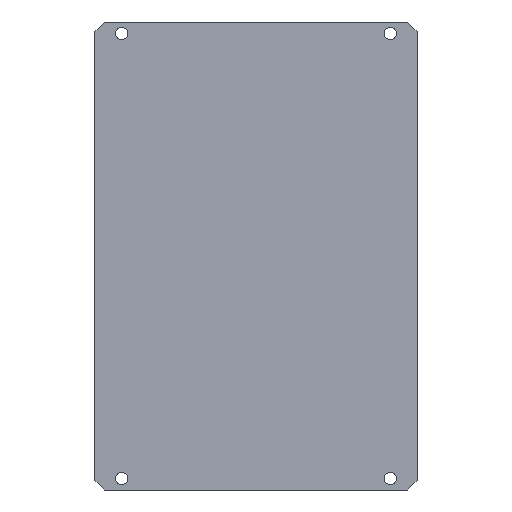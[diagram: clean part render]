
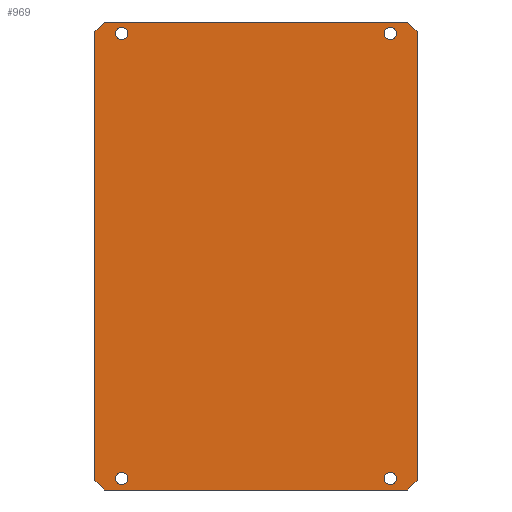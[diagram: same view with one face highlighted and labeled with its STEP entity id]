
A CAD part, front view. The second image highlights one B-rep face of the part: STEP entity #969.
In plain terms, the highlighted planar face has unit normal (0, -1, 0).
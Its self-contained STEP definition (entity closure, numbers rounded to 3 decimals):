
#31=LINE('',#1651,#83);
#33=LINE('',#1656,#85);
#34=LINE('',#1658,#86);
#35=LINE('',#1660,#87);
#36=LINE('',#1661,#88);
#37=LINE('',#1663,#89);
#38=LINE('',#1665,#90);
#39=LINE('',#1666,#91);
#83=VECTOR('',#1378,10.);
#85=VECTOR('',#1382,10.);
#86=VECTOR('',#1383,10.);
#87=VECTOR('',#1384,10.);
#88=VECTOR('',#1385,10.);
#89=VECTOR('',#1386,10.);
#90=VECTOR('',#1387,10.);
#91=VECTOR('',#1388,10.);
#196=PLANE('',#1120);
#230=FACE_BOUND('',#404,.T.);
#231=FACE_BOUND('',#405,.T.);
#232=FACE_BOUND('',#406,.T.);
#233=FACE_BOUND('',#407,.T.);
#302=FACE_OUTER_BOUND('',#403,.T.);
#403=EDGE_LOOP('',(#782,#783,#784,#785,#786,#787,#788,#789));
#404=EDGE_LOOP('',(#790));
#405=EDGE_LOOP('',(#791));
#406=EDGE_LOOP('',(#792));
#407=EDGE_LOOP('',(#793));
#478=CIRCLE('',#1121,1.6);
#479=CIRCLE('',#1122,1.6);
#480=CIRCLE('',#1123,1.6);
#481=CIRCLE('',#1124,1.6);
#543=VERTEX_POINT('',#1648);
#544=VERTEX_POINT('',#1650);
#545=VERTEX_POINT('',#1654);
#546=VERTEX_POINT('',#1655);
#547=VERTEX_POINT('',#1657);
#548=VERTEX_POINT('',#1659);
#549=VERTEX_POINT('',#1662);
#550=VERTEX_POINT('',#1664);
#551=VERTEX_POINT('',#1667);
#552=VERTEX_POINT('',#1669);
#553=VERTEX_POINT('',#1671);
#554=VERTEX_POINT('',#1673);
#632=EDGE_CURVE('',#543,#544,#31,.T.);
#634=EDGE_CURVE('',#545,#546,#33,.T.);
#635=EDGE_CURVE('',#545,#547,#34,.T.);
#636=EDGE_CURVE('',#548,#547,#35,.T.);
#637=EDGE_CURVE('',#548,#544,#36,.T.);
#638=EDGE_CURVE('',#543,#549,#37,.T.);
#639=EDGE_CURVE('',#550,#549,#38,.T.);
#640=EDGE_CURVE('',#550,#546,#39,.T.);
#641=EDGE_CURVE('',#551,#551,#478,.T.);
#642=EDGE_CURVE('',#552,#552,#479,.T.);
#643=EDGE_CURVE('',#553,#553,#480,.T.);
#644=EDGE_CURVE('',#554,#554,#481,.T.);
#782=ORIENTED_EDGE('',*,*,#634,.F.);
#783=ORIENTED_EDGE('',*,*,#635,.T.);
#784=ORIENTED_EDGE('',*,*,#636,.F.);
#785=ORIENTED_EDGE('',*,*,#637,.T.);
#786=ORIENTED_EDGE('',*,*,#632,.F.);
#787=ORIENTED_EDGE('',*,*,#638,.T.);
#788=ORIENTED_EDGE('',*,*,#639,.F.);
#789=ORIENTED_EDGE('',*,*,#640,.T.);
#790=ORIENTED_EDGE('',*,*,#641,.T.);
#791=ORIENTED_EDGE('',*,*,#642,.T.);
#792=ORIENTED_EDGE('',*,*,#643,.T.);
#793=ORIENTED_EDGE('',*,*,#644,.T.);
#969=ADVANCED_FACE('',(#302,#230,#231,#232,#233),#196,.F.);
#1120=AXIS2_PLACEMENT_3D('',#1653,#1380,#1381);
#1121=AXIS2_PLACEMENT_3D('',#1668,#1389,#1390);
#1122=AXIS2_PLACEMENT_3D('',#1670,#1391,#1392);
#1123=AXIS2_PLACEMENT_3D('',#1672,#1393,#1394);
#1124=AXIS2_PLACEMENT_3D('',#1674,#1395,#1396);
#1378=DIRECTION('',(0.707,0.,-0.707));
#1380=DIRECTION('center_axis',(0.,1.,0.));
#1381=DIRECTION('ref_axis',(0.,0.,1.));
#1382=DIRECTION('',(-0.707,0.,0.707));
#1383=DIRECTION('',(1.,0.,0.));
#1384=DIRECTION('',(-0.707,0.,-0.707));
#1385=DIRECTION('',(0.,0.,1.));
#1386=DIRECTION('',(-1.,0.,0.));
#1387=DIRECTION('',(0.707,0.,0.707));
#1388=DIRECTION('',(0.,0.,-1.));
#1389=DIRECTION('center_axis',(0.,1.,0.));
#1390=DIRECTION('ref_axis',(1.,0.,0.));
#1391=DIRECTION('center_axis',(0.,1.,0.));
#1392=DIRECTION('ref_axis',(1.,0.,0.));
#1393=DIRECTION('center_axis',(0.,1.,0.));
#1394=DIRECTION('ref_axis',(1.,0.,0.));
#1395=DIRECTION('center_axis',(0.,1.,0.));
#1396=DIRECTION('ref_axis',(1.,0.,0.));
#1648=CARTESIAN_POINT('',(-2.5,0.,0.));
#1650=CARTESIAN_POINT('',(0.,0.,-2.5));
#1651=CARTESIAN_POINT('',(3.5,0.,-6.));
#1653=CARTESIAN_POINT('Origin',(-42.,0.,-61.));
#1654=CARTESIAN_POINT('',(-81.5,0.,-122.));
#1655=CARTESIAN_POINT('',(-84.,0.,-119.5));
#1656=CARTESIAN_POINT('',(-87.5,0.,-116.));
#1657=CARTESIAN_POINT('',(-2.5,0.,-122.));
#1658=CARTESIAN_POINT('',(-84.,0.,-122.));
#1659=CARTESIAN_POINT('',(0.,0.,-119.5));
#1660=CARTESIAN_POINT('',(3.5,0.,-116.));
#1661=CARTESIAN_POINT('',(0.,0.,-122.));
#1662=CARTESIAN_POINT('',(-81.5,0.,0.));
#1663=CARTESIAN_POINT('',(0.,0.,0.));
#1664=CARTESIAN_POINT('',(-84.,0.,-2.5));
#1665=CARTESIAN_POINT('',(-87.5,0.,-6.));
#1666=CARTESIAN_POINT('',(-84.,0.,0.));
#1667=CARTESIAN_POINT('',(-78.6,0.,-119.));
#1668=CARTESIAN_POINT('Origin',(-77.,0.,-119.));
#1669=CARTESIAN_POINT('',(-8.6,0.,-119.));
#1670=CARTESIAN_POINT('Origin',(-7.,0.,-119.));
#1671=CARTESIAN_POINT('',(-78.6,0.,-3.));
#1672=CARTESIAN_POINT('Origin',(-77.,0.,-3.));
#1673=CARTESIAN_POINT('',(-8.6,0.,-3.));
#1674=CARTESIAN_POINT('Origin',(-7.,0.,-3.));
